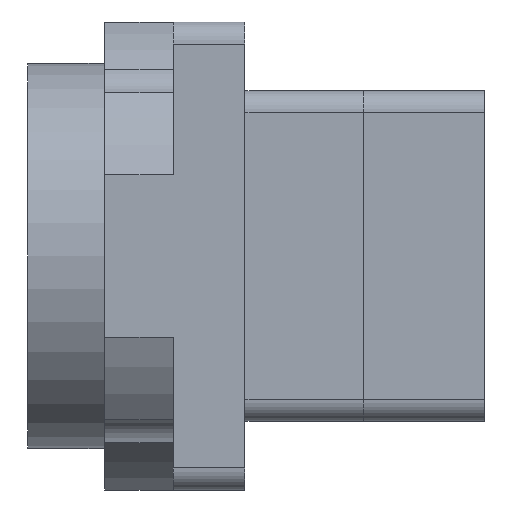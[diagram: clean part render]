
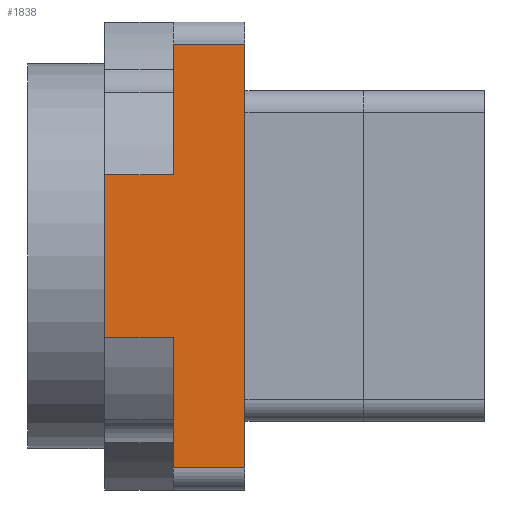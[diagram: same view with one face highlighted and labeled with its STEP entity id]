
A CAD part, left-side view. The second image highlights one B-rep face of the part: STEP entity #1838.
In plain terms, the highlighted planar face has unit normal (-1, 0, 0).
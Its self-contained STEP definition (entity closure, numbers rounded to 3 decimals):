
#36 = CARTESIAN_POINT ( 'NONE',  ( -42.5, 13., 38.5 ) ) ;
#139 = LINE ( 'NONE', #4413, #7761 ) ;
#164 = CARTESIAN_POINT ( 'NONE',  ( -42.5, 13., -14.79 ) ) ;
#510 = PLANE ( 'NONE',  #10087 ) ;
#563 = DIRECTION ( 'NONE',  ( 1., 0., 0. ) ) ;
#1229 = ORIENTED_EDGE ( 'NONE', *, *, #3342, .F. ) ;
#1279 = ORIENTED_EDGE ( 'NONE', *, *, #4299, .F. ) ;
#1427 = CARTESIAN_POINT ( 'NONE',  ( -42.5, 13., -38.5 ) ) ;
#1561 = EDGE_CURVE ( 'NONE', #5745, #9794, #9385, .T. ) ;
#1576 = CARTESIAN_POINT ( 'NONE',  ( -42.5, 13., 38.5 ) ) ;
#1838 = ADVANCED_FACE ( 'NONE', ( #2256 ), #510, .F. ) ;
#2142 = VECTOR ( 'NONE', #8581, 1000. ) ;
#2256 = FACE_OUTER_BOUND ( 'NONE', #8822, .T. ) ;
#2296 = CARTESIAN_POINT ( 'NONE',  ( -42.5, 13., -38.5 ) ) ;
#2488 = CARTESIAN_POINT ( 'NONE',  ( -42.5, 25.5, -14.79 ) ) ;
#2997 = LINE ( 'NONE', #5566, #4093 ) ;
#3342 = EDGE_CURVE ( 'NONE', #10595, #3437, #4214, .T. ) ;
#3437 = VERTEX_POINT ( 'NONE', #36 ) ;
#3461 = CARTESIAN_POINT ( 'NONE',  ( -42.5, 0., 38.5 ) ) ;
#3473 = EDGE_CURVE ( 'NONE', #4713, #8184, #6118, .T. ) ;
#3487 = CARTESIAN_POINT ( 'NONE',  ( -42.5, 13., 14.79 ) ) ;
#3681 = DIRECTION ( 'NONE',  ( 0., -1., 0. ) ) ;
#3762 = EDGE_CURVE ( 'NONE', #3437, #4276, #7475, .T. ) ;
#4059 = CARTESIAN_POINT ( 'NONE',  ( -42.5, 13., -38.5 ) ) ;
#4093 = VECTOR ( 'NONE', #9028, 1000. ) ;
#4214 = LINE ( 'NONE', #1427, #5016 ) ;
#4270 = DIRECTION ( 'NONE',  ( 0., 0., 1. ) ) ;
#4276 = VERTEX_POINT ( 'NONE', #3461 ) ;
#4299 = EDGE_CURVE ( 'NONE', #5745, #4832, #139, .T. ) ;
#4413 = CARTESIAN_POINT ( 'NONE',  ( -42.5, 25.5, 14.79 ) ) ;
#4713 = VERTEX_POINT ( 'NONE', #2296 ) ;
#4832 = VERTEX_POINT ( 'NONE', #7424 ) ;
#4838 = DIRECTION ( 'NONE',  ( 0., 0., 1. ) ) ;
#5016 = VECTOR ( 'NONE', #4838, 1000. ) ;
#5078 = CARTESIAN_POINT ( 'NONE',  ( -42.5, 25.5, -14.79 ) ) ;
#5566 = CARTESIAN_POINT ( 'NONE',  ( -42.5, 13., -38.5 ) ) ;
#5745 = VERTEX_POINT ( 'NONE', #5078 ) ;
#5830 = CARTESIAN_POINT ( 'NONE',  ( -42.5, 0., -38.5 ) ) ;
#6118 = LINE ( 'NONE', #9588, #7731 ) ;
#6610 = ORIENTED_EDGE ( 'NONE', *, *, #11168, .F. ) ;
#6648 = DIRECTION ( 'NONE',  ( 0., 0., -1. ) ) ;
#6756 = CARTESIAN_POINT ( 'NONE',  ( -42.5, 0., -38.5 ) ) ;
#7037 = DIRECTION ( 'NONE',  ( 0., -1., 0. ) ) ;
#7174 = LINE ( 'NONE', #7285, #10922 ) ;
#7285 = CARTESIAN_POINT ( 'NONE',  ( -42.5, 25.5, 14.79 ) ) ;
#7424 = CARTESIAN_POINT ( 'NONE',  ( -42.5, 25.5, 14.79 ) ) ;
#7475 = LINE ( 'NONE', #1576, #7741 ) ;
#7611 = EDGE_CURVE ( 'NONE', #4832, #10595, #7174, .T. ) ;
#7731 = VECTOR ( 'NONE', #7037, 1000. ) ;
#7741 = VECTOR ( 'NONE', #8441, 1000. ) ;
#7761 = VECTOR ( 'NONE', #10437, 1000. ) ;
#8184 = VERTEX_POINT ( 'NONE', #5830 ) ;
#8441 = DIRECTION ( 'NONE',  ( 0., -1., 0. ) ) ;
#8581 = DIRECTION ( 'NONE',  ( 0., -1., 0. ) ) ;
#8822 = EDGE_LOOP ( 'NONE', ( #9967, #9300, #1229, #9529, #1279, #9448, #6610, #11198 ) ) ;
#9028 = DIRECTION ( 'NONE',  ( 0., 0., 1. ) ) ;
#9300 = ORIENTED_EDGE ( 'NONE', *, *, #3762, .F. ) ;
#9385 = LINE ( 'NONE', #2488, #2142 ) ;
#9448 = ORIENTED_EDGE ( 'NONE', *, *, #1561, .T. ) ;
#9529 = ORIENTED_EDGE ( 'NONE', *, *, #7611, .F. ) ;
#9588 = CARTESIAN_POINT ( 'NONE',  ( -42.5, 13., -38.5 ) ) ;
#9794 = VERTEX_POINT ( 'NONE', #164 ) ;
#9967 = ORIENTED_EDGE ( 'NONE', *, *, #10429, .T. ) ;
#10087 = AXIS2_PLACEMENT_3D ( 'NONE', #4059, #563, #6648 ) ;
#10429 = EDGE_CURVE ( 'NONE', #8184, #4276, #11086, .T. ) ;
#10437 = DIRECTION ( 'NONE',  ( 0., 0., 1. ) ) ;
#10595 = VERTEX_POINT ( 'NONE', #3487 ) ;
#10922 = VECTOR ( 'NONE', #3681, 1000. ) ;
#11086 = LINE ( 'NONE', #6756, #11145 ) ;
#11145 = VECTOR ( 'NONE', #4270, 1000. ) ;
#11168 = EDGE_CURVE ( 'NONE', #4713, #9794, #2997, .T. ) ;
#11198 = ORIENTED_EDGE ( 'NONE', *, *, #3473, .T. ) ;
